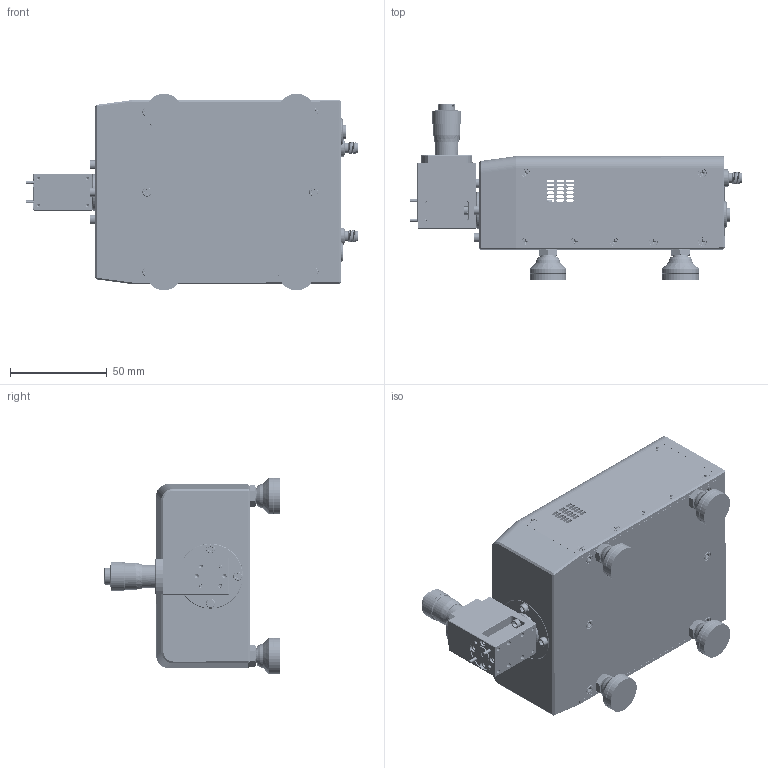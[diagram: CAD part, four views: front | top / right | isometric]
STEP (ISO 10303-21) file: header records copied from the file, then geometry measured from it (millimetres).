
FILE_DESCRIPTION (( 'STEP AP214' ), '1' );
FILE_NAME ('TO-RF-A.STEP', '2024-11-01T22:04:19', ( '' ), ( '' ), 'SwSTEP 2.0', 'SolidWorks 2021', '' );
FILE_SCHEMA (( 'AUTOMOTIVE_DESIGN' ));
Length unit declared in the file: inch
Products named in the file (1): TO-RF-A
Bounding box: 171.94 x 91.56 x 101.9 mm (x, y, z)
Volume: 243971.8 mm3; surface area: 136402.9 mm2
Topology: 78 solids, 83 shells, 4734 faces, 12523 edges, 7958 vertices
Faces by surface type: cylinder 2252, plane 1256, cone 890, bspline 283, sphere 37, torus 16
Entity records: 311576 total; most frequent: CARTESIAN_POINT 143481, ORIENTED_EDGE 24624, DIRECTION 19377, EDGE_CURVE 12312, VERTEX_POINT 7928, AXIS2_PLACEMENT_3D 7377, EDGE_LOOP 5176, DIMENSIONAL_EXPONENTS 4810
